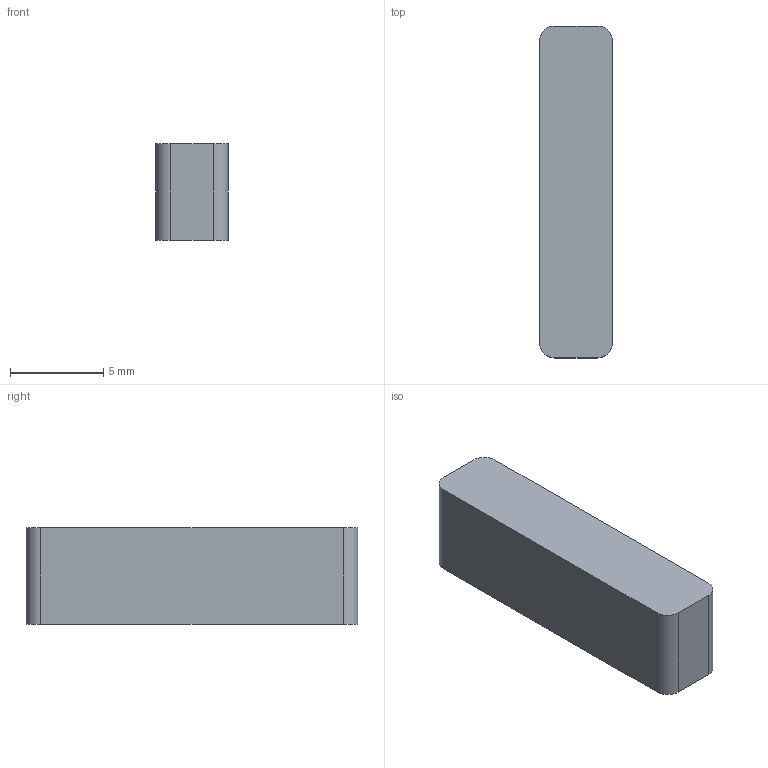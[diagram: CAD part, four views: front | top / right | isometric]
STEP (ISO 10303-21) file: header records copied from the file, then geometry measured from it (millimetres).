
FILE_DESCRIPTION(('Open CASCADE Model'),'2;1');
FILE_NAME('CUT_P02_BATTERY_OPEN_CHANNEL_3','2026-09-15T14:22:13',( 'Author'),('Open CASCADE'),'Open CASCADE STEP processor 7.9', 'build123d','Unknown');
FILE_SCHEMA(('AUTOMOTIVE_DESIGN { 1 0 10303 214 1 1 1 1 }'));
Length unit declared in the file: millimetre
Products named in the file (1): CUT_P02_BATTERY_OPEN_CHANNEL_3
Bounding box: 3.9 x 17.8 x 5.2 mm (x, y, z)
Volume: 358.1 mm3; surface area: 356.3 mm2
Topology: 1 solids, 1 shells, 10 faces, 24 edges, 16 vertices
Faces by surface type: plane 6, cylinder 4
Entity records: 642 total; most frequent: CARTESIAN_POINT 147, DIRECTION 94, LINE 56, VECTOR 56, ORIENTED_EDGE 48, PCURVE 48, DEFINITIONAL_REPRESENTATION 48, EDGE_CURVE 24
